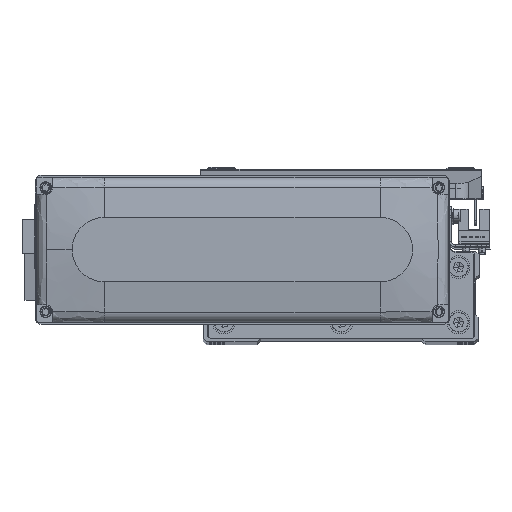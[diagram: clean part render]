
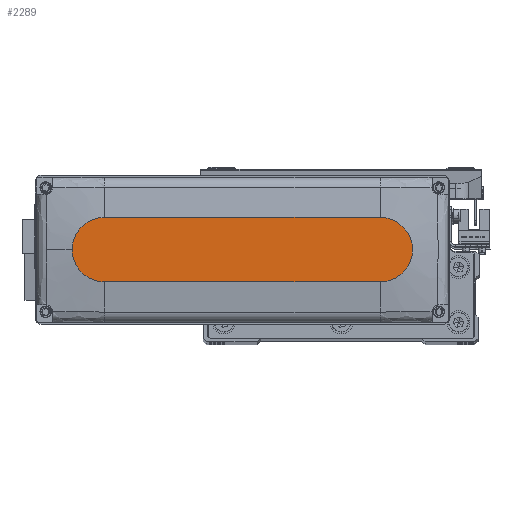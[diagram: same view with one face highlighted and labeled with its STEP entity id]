
A CAD part, top view. The second image highlights one B-rep face of the part: STEP entity #2289.
In plain terms, the highlighted planar face has unit normal (0, 0, 1).
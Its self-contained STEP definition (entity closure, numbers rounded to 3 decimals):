
#101 = DIRECTION ( 'NONE',  ( 1., 0., 0. ) ) ;
#1007 = CARTESIAN_POINT ( 'NONE',  ( -60., 0., 28.5 ) ) ;
#1205 = VERTEX_POINT ( 'NONE', #2401 ) ;
#2289 = ADVANCED_FACE ( 'NONE', ( #35383 ), #4045, .T. ) ;
#2401 = CARTESIAN_POINT ( 'NONE',  ( -60., 14., 28.5 ) ) ;
#2438 = DIRECTION ( 'NONE',  ( -1., 0., 0. ) ) ;
#4045 = PLANE ( 'NONE',  #13815 ) ;
#7810 = CARTESIAN_POINT ( 'NONE',  ( 60., -14., 28.5 ) ) ;
#8724 = AXIS2_PLACEMENT_3D ( 'NONE', #41026, #36905, #12629 ) ;
#8918 = VERTEX_POINT ( 'NONE', #15959 ) ;
#9369 = VECTOR ( 'NONE', #25251, 1000. ) ;
#9679 = ORIENTED_EDGE ( 'NONE', *, *, #42260, .T. ) ;
#11310 = CARTESIAN_POINT ( 'NONE',  ( -60., -14., 28.5 ) ) ;
#12499 = CARTESIAN_POINT ( 'NONE',  ( -60., 14., 28.5 ) ) ;
#12629 = DIRECTION ( 'NONE',  ( 1., 0., 0. ) ) ;
#13266 = CIRCLE ( 'NONE', #19106, 14. ) ;
#13815 = AXIS2_PLACEMENT_3D ( 'NONE', #17968, #17291, #32393 ) ;
#14714 = DIRECTION ( 'NONE',  ( 0., 0., 1. ) ) ;
#15959 = CARTESIAN_POINT ( 'NONE',  ( 74., 0., 28.5 ) ) ;
#17291 = DIRECTION ( 'NONE',  ( 0., 0., 1. ) ) ;
#17696 = CARTESIAN_POINT ( 'NONE',  ( 60., 0., 28.5 ) ) ;
#17968 = CARTESIAN_POINT ( 'NONE',  ( 0., 0., 28.5 ) ) ;
#18785 = ORIENTED_EDGE ( 'NONE', *, *, #37200, .T. ) ;
#19106 = AXIS2_PLACEMENT_3D ( 'NONE', #17696, #45191, #101 ) ;
#20596 = VERTEX_POINT ( 'NONE', #21066 ) ;
#20944 = AXIS2_PLACEMENT_3D ( 'NONE', #1007, #14714, #39013 ) ;
#21066 = CARTESIAN_POINT ( 'NONE',  ( -60., -14., 28.5 ) ) ;
#24410 = CARTESIAN_POINT ( 'NONE',  ( 60., 14., 28.5 ) ) ;
#25251 = DIRECTION ( 'NONE',  ( 1., 0., 0. ) ) ;
#26569 = ORIENTED_EDGE ( 'NONE', *, *, #33223, .T. ) ;
#26698 = LINE ( 'NONE', #12499, #30639 ) ;
#27460 = ORIENTED_EDGE ( 'NONE', *, *, #34605, .T. ) ;
#30639 = VECTOR ( 'NONE', #2438, 1000. ) ;
#32010 = ORIENTED_EDGE ( 'NONE', *, *, #44957, .T. ) ;
#32393 = DIRECTION ( 'NONE',  ( 1., 0., 0. ) ) ;
#33223 = EDGE_CURVE ( 'NONE', #1205, #20596, #34089, .T. ) ;
#34089 = CIRCLE ( 'NONE', #20944, 14. ) ;
#34605 = EDGE_CURVE ( 'NONE', #20596, #42857, #39025, .T. ) ;
#35383 = FACE_OUTER_BOUND ( 'NONE', #35422, .T. ) ;
#35422 = EDGE_LOOP ( 'NONE', ( #9679, #26569, #27460, #32010, #18785 ) ) ;
#36905 = DIRECTION ( 'NONE',  ( 0., 0., 1. ) ) ;
#37200 = EDGE_CURVE ( 'NONE', #8918, #41824, #37948, .T. ) ;
#37948 = CIRCLE ( 'NONE', #8724, 14. ) ;
#39013 = DIRECTION ( 'NONE',  ( 1., 0., 0. ) ) ;
#39025 = LINE ( 'NONE', #11310, #9369 ) ;
#41026 = CARTESIAN_POINT ( 'NONE',  ( 60., 0., 28.5 ) ) ;
#41824 = VERTEX_POINT ( 'NONE', #24410 ) ;
#42260 = EDGE_CURVE ( 'NONE', #41824, #1205, #26698, .T. ) ;
#42857 = VERTEX_POINT ( 'NONE', #7810 ) ;
#44957 = EDGE_CURVE ( 'NONE', #42857, #8918, #13266, .T. ) ;
#45191 = DIRECTION ( 'NONE',  ( 0., 0., 1. ) ) ;
